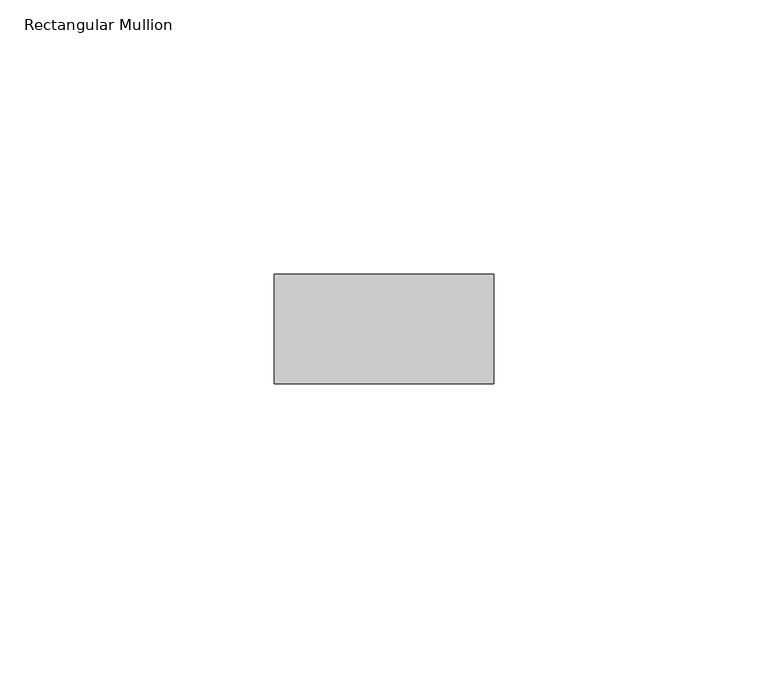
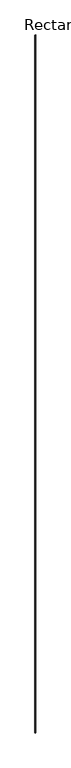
"""IFC4 building model written with IfcOpenShell, lengths in millimetres: member geometry, Rectangular Mullion : RIPA 4x2 cm."""

from ifc_helpers import new_model, si_unit, frame, origin, place, context, project, spatial, polyline, outline, extrude, source, transform, mapped, element, save


def rectangular_mullion_57f3b6e2(model_context):
    return source(origin(), model_context, "Body", "SweptSolid", [
        extrude(outline(polyline([(20.0, 0.0), (20.0, -20.0), (-20.0, -20.0), (-20.0, 0.0), (20.0, 0.0)])), frame((0.0, 0.0, -38222.8163144), z_axis=(0.0, 0.0, 1.0), x_axis=(1.0, 0.0, 0.0)), (0.0, 0.0, 1.0), 38222.8163144),
    ])


if __name__ == "__main__":
    model = new_model("IFC4")
    model_context = context("Model", 3, world=origin())
    ifc_project = project(units=[si_unit("LENGTHUNIT", "METRE", prefix="MILLI")], contexts=[model_context])
    site = spatial("IfcSite", under=ifc_project)
    building = spatial("IfcBuilding", under=site)
    placement = place(None, origin())
    rectangular_mullion_shape = rectangular_mullion_57f3b6e2(model_context)
    element("IfcMember", 1, ObjectType="Rectangular Mullion : RIPA 4x2 cm", at=placement, inside=building, context=model_context, shape_type="MappedRepresentation", body=[
        mapped(rectangular_mullion_shape, transform((0.0, 0.0, 0.0), x_axis=(1.0, 0.0, 0.0), y_axis=(0.0, 1.0, 0.0), z_axis=(0.0, 0.0, 1.0))),
    ])
    save(model, "model.ifc")
